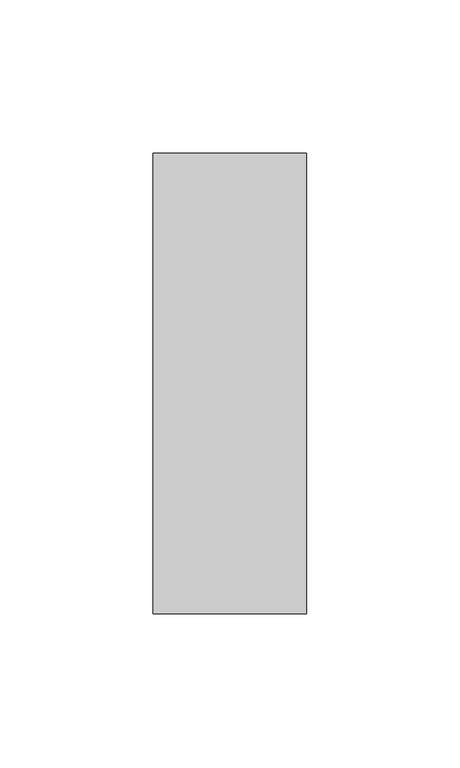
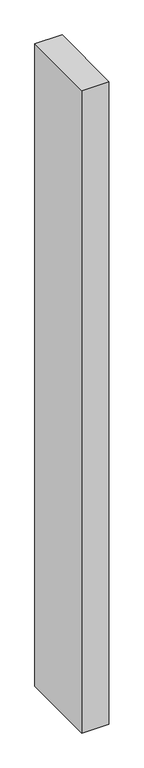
"""IFC4 building model written with IfcOpenShell, lengths in millimetres: member geometry, Прямоугольный импост : 50 x 150 мм."""

from ifc_helpers import new_model, si_unit, frame, origin, place, context, project, spatial, polyline, outline, extrude, source, transform, mapped, element, save


def member_d8154d0c(model_context):
    return source(origin(), model_context, "Body", "SweptSolid", [
        extrude(outline(polyline([(25.0, 75.0), (25.0, -75.0), (-25.0, -75.0), (-25.0, 75.0), (25.0, 75.0)])), frame((0.0, 0.0, -1253.7750261), z_axis=(0.0, 0.0, 1.0), x_axis=(1.0, 0.0, 0.0)), (0.0, 0.0, 1.0), 1253.7750261),
    ])


if __name__ == "__main__":
    model = new_model("IFC4")
    model_context = context("Model", 3, world=origin())
    ifc_project = project(units=[si_unit("LENGTHUNIT", "METRE", prefix="MILLI")], contexts=[model_context])
    site = spatial("IfcSite", under=ifc_project)
    building = spatial("IfcBuilding", under=site)
    placement = place(None, origin())
    member_shape = member_d8154d0c(model_context)
    element("IfcMember", 1, ObjectType="Прямоугольный импост : 50 x 150 мм", at=placement, inside=building, context=model_context, shape_type="MappedRepresentation", body=[
        mapped(member_shape, transform((0.0, 0.0, 0.0), x_axis=(1.0, 0.0, 0.0), y_axis=(0.0, 1.0, 0.0), z_axis=(0.0, 0.0, 1.0))),
    ])
    save(model, "model.ifc")
